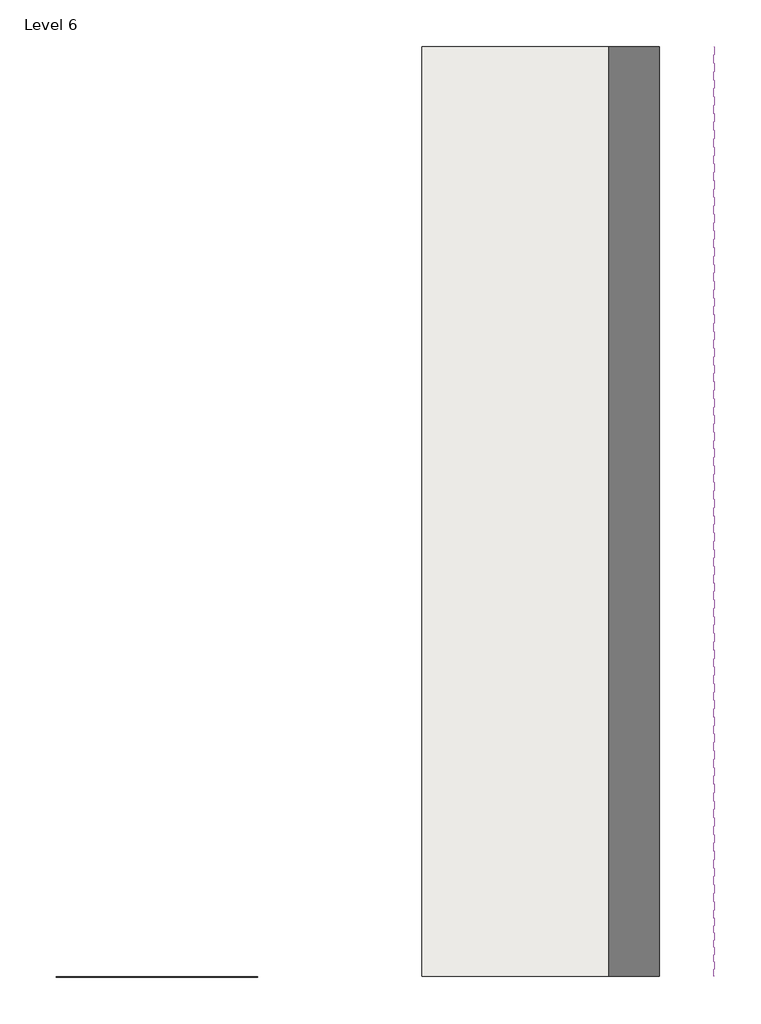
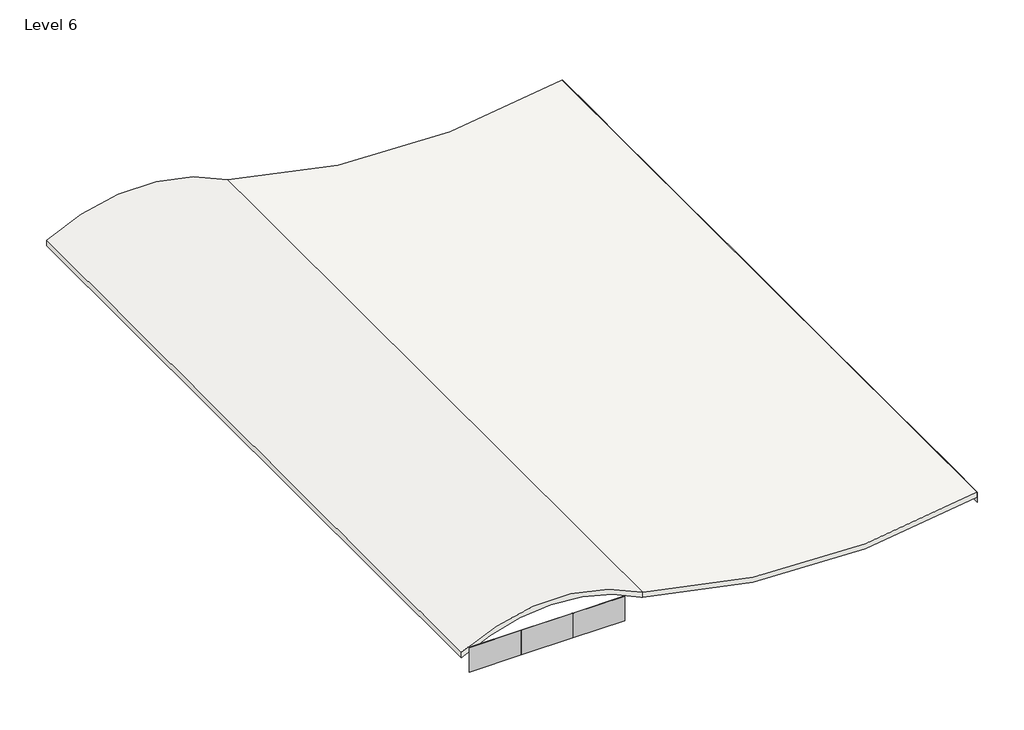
# One storey, incomplete: 17 plates, 1 roof.
"""IFC4 building model written with IfcOpenShell, lengths in millimetres."""

import ifcopenshell
import ifcopenshell.guid

model = None  # the IFC model being written
_history = None  # IfcOwnerHistory: only IFC2X3 demands one
_inside = {}  # id of a spatial element -> (the spatial element, [elements in it])
_under = {}  # id of a project, library or spatial element -> (it, [spatial elements below it])
_declared = {}  # id of a project -> (the project, [libraries it declares])
_typed = {}  # id of a type object -> (the type object, [elements of that type])
_made_of = {}  # id of a material, layer set ... -> (it, [elements and type objects made of it])


def new_model(schema):
    """Start an empty IFC model of exactly this schema.

    Asked for "IFC4X3", IfcOpenShell would pick the latest addendum, in which some entities
    have other attributes; the version numbers below select the first issue.
    IFC2X3 requires an IfcOwnerHistory on every rooted entity: one is made here for all.
    """
    global model, _history
    if schema == "IFC4X3":
        model = ifcopenshell.file(schema_version=(4, 3, 0, 0))
    else:
        model = ifcopenshell.file(schema=schema)
    _inside.clear()
    _under.clear()
    _declared.clear()
    _typed.clear()
    _made_of.clear()
    _history = None
    if model.schema == "IFC2X3":
        org = make("IfcOrganization", Name="unknown")
        user = make(
            "IfcPersonAndOrganization",
            ThePerson=make("IfcPerson", FamilyName="unknown"),
            TheOrganization=org,
        )
        app = make(
            "IfcApplication",
            ApplicationDeveloper=org,
            Version="unknown",
            ApplicationFullName="unknown",
            ApplicationIdentifier="unknown",
        )
        _history = make(
            "IfcOwnerHistory",
            OwningUser=user,
            OwningApplication=app,
            ChangeAction="ADDED",
            CreationDate=0,
        )
    return model


def make(cls, **values):
    """One entity of the class cls with the attributes given. An attribute that is None is left unset."""
    return model.create_entity(
        cls, **{name: value for name, value in values.items() if value is not None}
    )


def rooted(cls, **values):
    """An entity with a GlobalId (a new one), such as an element, a storey or a relation."""
    return make(cls, GlobalId=ifcopenshell.guid.new(), OwnerHistory=_history, **values)


def si_unit(unit_type, name, prefix=None):
    """IfcSIUnit, for example si_unit("LENGTHUNIT", "METRE", prefix="MILLI")."""
    return make("IfcSIUnit", UnitType=unit_type, Prefix=prefix, Name=name)


def assignment(units):
    """IfcUnitAssignment: the units of a project."""
    return None if units is None else make("IfcUnitAssignment", Units=units)


def point(xyz):
    """IfcCartesianPoint."""
    return None if xyz is None else make("IfcCartesianPoint", Coordinates=xyz)


def direction(xyz):
    """IfcDirection."""
    return None if xyz is None else make("IfcDirection", DirectionRatios=xyz)


def frame(location, z_axis=None, x_axis=None):
    """IfcAxis2Placement3D, a coordinate frame: its origin and axes. An axis left out is left unset."""
    return make(
        "IfcAxis2Placement3D",
        Location=point(location),
        Axis=direction(z_axis),
        RefDirection=direction(x_axis),
    )


def origin():
    """The frame at (0, 0, 0) with its axes left unset."""
    return frame((0.0, 0.0, 0.0))


def origin_with_axes():
    """The frame at (0, 0, 0) with the z axis (0, 0, 1) and the x axis (1, 0, 0) written out."""
    return frame((0.0, 0.0, 0.0), z_axis=(0.0, 0.0, 1.0), x_axis=(1.0, 0.0, 0.0))


def place(relative_to, where):
    """IfcLocalPlacement: puts the frame where relative to a parent placement (None: the world)."""
    return make(
        "IfcLocalPlacement", PlacementRelTo=relative_to, RelativePlacement=where
    )


def context(
    kind, dimensions, precision=None, world=None, true_north=None, identifier=None
):
    """IfcGeometricRepresentationContext, for example the 3D "Model" context."""
    return make(
        "IfcGeometricRepresentationContext",
        ContextIdentifier=identifier,
        ContextType=kind,
        CoordinateSpaceDimension=dimensions,
        Precision=precision,
        WorldCoordinateSystem=world,
        TrueNorth=true_north,
    )


def project(units=None, contexts=None):
    """IfcProject with its units and contexts."""
    return rooted(
        "IfcProject",
        Name="project",
        RepresentationContexts=contexts,
        UnitsInContext=assignment(units),
    )


def spatial(cls, under=None, at=None, **own):
    """A site, building, storey or space (cls), placed at a placement, below another one or the project."""
    s = rooted(cls, ObjectPlacement=at, **own)
    if under is not None:
        _under.setdefault(under.id(), (under, []))[1].append(s)
    return s


def polyline(points):
    """IfcPolyline through the points."""
    return make("IfcPolyline", Points=[point(p) for p in points])


def circle_curve(where, radius):
    """IfcCircle in the frame where."""
    return make("IfcCircle", Position=where, Radius=radius)


def outline(outer, holes=None, kind="AREA"):
    """IfcArbitraryClosedProfileDef: a profile drawn as a closed curve; with holes, ...WithVoids."""
    if holes is None:
        return make("IfcArbitraryClosedProfileDef", ProfileType=kind, OuterCurve=outer)
    return make(
        "IfcArbitraryProfileDefWithVoids",
        ProfileType=kind,
        OuterCurve=outer,
        InnerCurves=holes,
    )


def extrude(swept, where, along, depth):
    """IfcExtrudedAreaSolid: the profile swept, set in the frame where, extruded along a direction by depth."""
    return make(
        "IfcExtrudedAreaSolid",
        SweptArea=swept,
        Position=where,
        ExtrudedDirection=direction(along),
        Depth=depth,
    )


def shape(context_of_items, identifier, shape_type, items):
    """IfcShapeRepresentation: the items that make up one representation, for example the "Body"."""
    return make(
        "IfcShapeRepresentation",
        ContextOfItems=context_of_items,
        RepresentationIdentifier=identifier,
        RepresentationType=shape_type,
        Items=items,
    )


def source(mapping_origin, context_of_items, identifier, shape_type, items):
    """IfcRepresentationMap: a shape defined once, which mapped items show again and again."""
    return make(
        "IfcRepresentationMap",
        MappingOrigin=mapping_origin,
        MappedRepresentation=shape(context_of_items, identifier, shape_type, items),
    )


def transform(
    local_origin,
    x_axis=None,
    y_axis=None,
    z_axis=None,
    scale=None,
    scale2=None,
    scale3=None,
    uniform=True,
):
    """IfcCartesianTransformationOperator3D, or its non-uniform kind. x_axis, y_axis, z_axis: its Axis1, 2, 3."""
    if uniform:
        return make(
            "IfcCartesianTransformationOperator3D",
            Axis1=direction(x_axis),
            Axis2=direction(y_axis),
            LocalOrigin=point(local_origin),
            Scale=scale,
            Axis3=direction(z_axis),
        )
    return make(
        "IfcCartesianTransformationOperator3DnonUniform",
        Axis1=direction(x_axis),
        Axis2=direction(y_axis),
        LocalOrigin=point(local_origin),
        Scale=scale,
        Axis3=direction(z_axis),
        Scale2=scale2,
        Scale3=scale3,
    )


def mapped(mapping_source, mapping_target):
    """IfcMappedItem: shows the shape of a source again, moved by a transform."""
    return make(
        "IfcMappedItem", MappingSource=mapping_source, MappingTarget=mapping_target
    )


def made_of(thing, what):
    """Note that an element or type object is made of a material, layer set ...; save() writes the relation."""
    if what is not None:
        _made_of.setdefault(what.id(), (what, []))[1].append(thing)
    return thing


def element(
    cls,
    number,
    at=None,
    inside=None,
    cuts=None,
    type_object=None,
    material=None,
    context=None,
    identifier="Body",
    shape_type=None,
    held_by="IfcProductDefinitionShape",
    body=None,
    shapes=None,
    **own,
):
    """One element of the class cls, such as IfcWall. Its Tag is "e" and its number.

    at: its placement. inside: the storey or other place that contains it. cuts: it is an
    opening in that element (IfcRelVoidsElement). A single representation is given by context,
    identifier, shape_type and body (its items); several are given by shapes. held_by: the class
    of the entity that holds the representations. save() writes the other relations.
    """
    e = rooted(cls, Tag="e%d" % number, ObjectPlacement=at, **own)
    if body is not None:
        shapes = [shape(context, identifier, shape_type, body)]
    if shapes is not None:
        e.Representation = make(held_by, Representations=shapes)
    if inside is not None:
        _inside.setdefault(inside.id(), (inside, []))[1].append(e)
    if cuts is not None:
        rooted(
            "IfcRelVoidsElement", RelatingBuildingElement=cuts, RelatedOpeningElement=e
        )
    if type_object is not None:
        _typed.setdefault(type_object.id(), (type_object, []))[1].append(e)
    return made_of(e, material)


def aggregate(whole, parts):
    """IfcRelAggregates: a whole, such as a stair, and the parts it consists of."""
    return rooted("IfcRelAggregates", RelatingObject=whole, RelatedObjects=parts)


def save(model, path):
    """Write the relations noted so far, then the file.

    IfcRelAggregates (storeys below a building ...), IfcRelContainedInSpatialStructure (elements
    in a storey), IfcRelDefinesByType, IfcRelAssociatesMaterial and IfcRelDeclares: one each for
    every whole, place, type object, material and project.
    """
    for whole, parts in _under.values():
        aggregate(whole, parts)
    for where, things in _inside.values():
        rooted(
            "IfcRelContainedInSpatialStructure",
            RelatedElements=things,
            RelatingStructure=where,
        )
    for kind, things in _typed.values():
        rooted("IfcRelDefinesByType", RelatedObjects=things, RelatingType=kind)
    for what, things in _made_of.values():
        rooted("IfcRelAssociatesMaterial", RelatedObjects=things, RelatingMaterial=what)
    for by, libraries in _declared.values():
        rooted("IfcRelDeclares", RelatingContext=by, RelatedDefinitions=libraries)
    model.write(path)


def plane_surface(at):
    """IfcPlane: the flat surface through the origin of the frame at, square to its z axis."""
    return make("IfcPlane", Position=at)


def cylinder_surface(at, radius):
    """IfcCylindricalSurface: all points at the distance radius from the z axis of the frame at."""
    return make("IfcCylindricalSurface", Position=at, Radius=radius)


def revolved_surface(curve, axis_point, axis_direction):
    """IfcSurfaceOfRevolution: the curve turned about the line through axis_point along axis_direction."""
    return make(
        "IfcSurfaceOfRevolution",
        SweptCurve=make("IfcArbitraryOpenProfileDef", ProfileType="CURVE", Curve=curve),
        AxisPosition=make("IfcAxis1Placement", Location=point(axis_point), Axis=direction(axis_direction)),
    )


def advanced_brep(points, edges, surfaces, faces):
    """IfcAdvancedBrep: a solid bounded by faces that lie on surfaces and meet in shared edges.

    An edge is (start, end): straight between two places in points (the first is 0);
    or (start, end, curve); or (start, end, curve, False) where it runs against its curve.
    A face is (place in surfaces, loops), or (place, loops, False) where it looks against
    its surface's normal. A loop lists edges by number (the first is 1), with a minus sign
    where the edge is run from its end to its start. The first loop is the outer one.
    """
    corners = [point(p) for p in points]
    vertices = [make("IfcVertexPoint", VertexGeometry=c) for c in corners]
    made = []
    for start, end, *more in edges:
        made.append(
            make(
                "IfcEdgeCurve",
                EdgeStart=vertices[start],
                EdgeEnd=vertices[end],
                EdgeGeometry=more[0] if more else make("IfcPolyline", Points=[corners[start], corners[end]]),
                SameSense=more[1] if len(more) > 1 else True,
            )
        )
    hull = []
    for where, loops, *sense in faces:
        bounds = []
        for j, loop in enumerate(loops):
            ring = [make("IfcOrientedEdge", EdgeElement=made[abs(k) - 1], Orientation=k > 0) for k in loop]
            bounds.append(
                make(
                    "IfcFaceOuterBound" if j == 0 else "IfcFaceBound",
                    Bound=make("IfcEdgeLoop", EdgeList=ring),
                    Orientation=True,
                )
            )
        hull.append(make("IfcAdvancedFace", Bounds=bounds, FaceSurface=surfaces[where], SameSense=sense[0] if sense else True))
    return make("IfcAdvancedBrep", Outer=make("IfcClosedShell", CfsFaces=hull))


def system_panel_glazed_0faff7bc(model_context):
    return source(origin(), model_context, "Body", "SweptSolid", [
        extrude(outline(polyline([(1524.0, 19.05), (-1524.0, 19.05), (-1524.0, 44.45), (1524.0, 44.45), (1524.0, 19.05)])), origin_with_axes(), (0.0, 0.0, 1.0), 1524.0),
    ])


def system_panel_glazed_0008f13c(model_context):
    return source(origin(), model_context, "Body", "SweptSolid", [
        extrude(outline(polyline([(1524.0, 19.05), (-1524.0, 19.05), (-1524.0, 44.45), (1524.0, 44.45), (1524.0, 19.05)])), origin_with_axes(), (0.0, 0.0, 1.0), 609.6),
    ])


def system_panel_glazed_53f81c78(model_context):
    return source(origin(), model_context, "Body", "SweptSolid", [
        extrude(outline(polyline([(1319.7377931, 19.05), (-1319.7377931, 19.05), (-1319.7377931, 44.45), (1319.7377931, 44.45), (1319.7377931, 19.05)])), origin_with_axes(), (0.0, 0.0, 1.0), 609.6),
    ])


model = new_model("IFC4")

# Units and contexts
model_context = context("Model", 3, world=origin())
ifc_project = project(units=[si_unit("LENGTHUNIT", "METRE", prefix="MILLI")], contexts=[model_context])

# Site, building, storey
site = spatial("IfcSite", under=ifc_project)
building = spatial("IfcBuilding", under=site)
storey = spatial("IfcBuildingStorey", under=building, Name="Level 6", Elevation=17221.2)

# Plates
placement = place(None, origin())
system_panel_glazed_shape = system_panel_glazed_0faff7bc(model_context)
element("IfcPlate", 1, ObjectType="System Panel : Glazed", at=placement, inside=storey, context=model_context, shape_type="MappedRepresentation", body=[
    mapped(system_panel_glazed_shape, transform((-9515.9167804, -17542.9691989, 18376.4959124), x_axis=(-1.0, 0.0, 0.0), y_axis=(0.0, -1.0, 0.0), z_axis=(0.0, 0.0, 1.0))),
])
element("IfcPlate", 2, ObjectType="System Panel : Glazed", at=placement, inside=storey, context=model_context, shape_type="MappedRepresentation", body=[
    mapped(system_panel_glazed_shape, transform((-12563.9167804, -17542.9691989, 18376.4959124), x_axis=(-1.0, 0.0, 0.0), y_axis=(0.0, -1.0, 0.0), z_axis=(0.0, 0.0, 1.0))),
])
element("IfcPlate", 3, ObjectType="System Panel : Glazed", at=placement, inside=storey, context=model_context, shape_type="MappedRepresentation", body=[
    mapped(system_panel_glazed_shape, transform((-15611.9167804, -17542.9691989, 18376.4959124), x_axis=(-1.0, 0.0, 0.0), y_axis=(0.0, -1.0, 0.0), z_axis=(0.0, 0.0, 1.0))),
])
system_panel_glazed_2_shape = system_panel_glazed_0008f13c(model_context)
element("IfcPlate", 4, ObjectType="System Panel : Glazed", at=placement, inside=storey, context=model_context, shape_type="MappedRepresentation", body=[
    mapped(system_panel_glazed_2_shape, transform((12734.4832196, 23196.5063873, 18452.385767), x_axis=(0.0, -1.0, 0.0), y_axis=(1.0, 0.0, 0.0), z_axis=(0.0, 0.0, 1.0))),
])
element("IfcPlate", 5, ObjectType="System Panel : Glazed", at=placement, inside=storey, context=model_context, shape_type="MappedRepresentation", body=[
    mapped(system_panel_glazed_2_shape, transform((12734.4832196, 20148.5063873, 18452.385767), x_axis=(0.0, -1.0, 0.0), y_axis=(1.0, 0.0, 0.0), z_axis=(0.0, 0.0, 1.0))),
])
element("IfcPlate", 6, ObjectType="System Panel : Glazed", at=placement, inside=storey, context=model_context, shape_type="MappedRepresentation", body=[
    mapped(system_panel_glazed_2_shape, transform((12734.4832196, 17100.5063873, 18452.385767), x_axis=(0.0, -1.0, 0.0), y_axis=(1.0, 0.0, 0.0), z_axis=(0.0, 0.0, 1.0))),
])
element("IfcPlate", 7, ObjectType="System Panel : Glazed", at=placement, inside=storey, context=model_context, shape_type="MappedRepresentation", body=[
    mapped(system_panel_glazed_2_shape, transform((12734.4832196, 14052.5063873, 18452.385767), x_axis=(0.0, -1.0, 0.0), y_axis=(1.0, 0.0, 0.0), z_axis=(0.0, 0.0, 1.0))),
])
element("IfcPlate", 8, ObjectType="System Panel : Glazed", at=placement, inside=storey, context=model_context, shape_type="MappedRepresentation", body=[
    mapped(system_panel_glazed_2_shape, transform((12734.4832196, 11004.5063873, 18452.385767), x_axis=(0.0, -1.0, 0.0), y_axis=(1.0, 0.0, 0.0), z_axis=(0.0, 0.0, 1.0))),
])
element("IfcPlate", 9, ObjectType="System Panel : Glazed", at=placement, inside=storey, context=model_context, shape_type="MappedRepresentation", body=[
    mapped(system_panel_glazed_2_shape, transform((12734.4832196, 7956.5063873, 18452.385767), x_axis=(0.0, -1.0, 0.0), y_axis=(1.0, 0.0, 0.0), z_axis=(0.0, 0.0, 1.0))),
])
element("IfcPlate", 10, ObjectType="System Panel : Glazed", at=placement, inside=storey, context=model_context, shape_type="MappedRepresentation", body=[
    mapped(system_panel_glazed_2_shape, transform((12734.4832196, 4908.5063873, 18452.385767), x_axis=(0.0, -1.0, 0.0), y_axis=(1.0, 0.0, 0.0), z_axis=(0.0, 0.0, 1.0))),
])
element("IfcPlate", 11, ObjectType="System Panel : Glazed", at=placement, inside=storey, context=model_context, shape_type="MappedRepresentation", body=[
    mapped(system_panel_glazed_2_shape, transform((12734.4832196, 1860.5063873, 18452.385767), x_axis=(0.0, -1.0, 0.0), y_axis=(1.0, 0.0, 0.0), z_axis=(0.0, 0.0, 1.0))),
])
element("IfcPlate", 12, ObjectType="System Panel : Glazed", at=placement, inside=storey, context=model_context, shape_type="MappedRepresentation", body=[
    mapped(system_panel_glazed_2_shape, transform((12734.4832196, -1187.4936127, 18452.385767), x_axis=(0.0, -1.0, 0.0), y_axis=(1.0, 0.0, 0.0), z_axis=(0.0, 0.0, 1.0))),
])
element("IfcPlate", 13, ObjectType="System Panel : Glazed", at=placement, inside=storey, context=model_context, shape_type="MappedRepresentation", body=[
    mapped(system_panel_glazed_2_shape, transform((12734.4832196, -4235.4936127, 18452.385767), x_axis=(0.0, -1.0, 0.0), y_axis=(1.0, 0.0, 0.0), z_axis=(0.0, 0.0, 1.0))),
])
element("IfcPlate", 14, ObjectType="System Panel : Glazed", at=placement, inside=storey, context=model_context, shape_type="MappedRepresentation", body=[
    mapped(system_panel_glazed_2_shape, transform((12734.4832196, -7283.4936127, 18452.385767), x_axis=(0.0, -1.0, 0.0), y_axis=(1.0, 0.0, 0.0), z_axis=(0.0, 0.0, 1.0))),
])
element("IfcPlate", 15, ObjectType="System Panel : Glazed", at=placement, inside=storey, context=model_context, shape_type="MappedRepresentation", body=[
    mapped(system_panel_glazed_2_shape, transform((12734.4832196, -10331.4936127, 18452.385767), x_axis=(0.0, -1.0, 0.0), y_axis=(1.0, 0.0, 0.0), z_axis=(0.0, 0.0, 1.0))),
])
element("IfcPlate", 16, ObjectType="System Panel : Glazed", at=placement, inside=storey, context=model_context, shape_type="MappedRepresentation", body=[
    mapped(system_panel_glazed_2_shape, transform((12734.4832196, -13379.4936127, 18452.385767), x_axis=(0.0, -1.0, 0.0), y_axis=(1.0, 0.0, 0.0), z_axis=(0.0, 0.0, 1.0))),
])
system_panel_glazed_3_shape = system_panel_glazed_53f81c78(model_context)
element("IfcPlate", 17, ObjectType="System Panel : Glazed", at=placement, inside=storey, context=model_context, shape_type="MappedRepresentation", body=[
    mapped(system_panel_glazed_3_shape, transform((12734.4832196, -16223.2314058, 18452.385767), x_axis=(0.0, -1.0, 0.0), y_axis=(1.0, 0.0, 0.0), z_axis=(0.0, 0.0, 1.0))),
])

# Roof
element("IfcRoof", 18, ObjectType="Generic - 12\"", at=placement, inside=storey, context=model_context, shape_type="AdvancedBrep", body=[
    advanced_brep(
    [(-6913.1406833, -17542.9691989, 19748.0959124), (12734.4832196, -17542.9691989, 19061.985767), (12734.4832196, 24720.5063873, 19061.985767), (-6913.1406833, 24720.5063873, 19748.0959124), (-17581.1406833, -17542.9691989, 19748.0959124), (-17581.1406833, 24720.5063873, 19748.0959124), (-7034.1967017, -17542.9691989, 19466.1218812), (-7034.1967017, 24720.5063873, 19466.1218812), (-6913.1406833, 24720.5063873, 19430.2088549), (12734.4832196, 24720.5063873, 18749.7681461), (12734.4832196, -17542.9691989, 18749.7681461), (-6913.1406833, -17542.9691989, 19430.2088549), (-17581.1406833, -17542.9691989, 19395.207787), (-17581.1406833, 24720.5063873, 19395.207787)],
    [
        (0, 1, circle_curve(frame((4231.105887, -17542.9691989, 57217.3410283), z_axis=(0.0, -1.0, 0.0), x_axis=(0.9585032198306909, 0.0, -0.285081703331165)), 39091.4128829)),
        (1, 2),
        (2, 3, circle_curve(frame((4231.105887, 24720.5063873, 57217.3410283), z_axis=(0.0, 1.0, 0.0), x_axis=(0.9585032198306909, 0.0, -0.285081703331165)), 39091.4128829)),
        (3, 0),
        (4, 0, circle_curve(frame((-12247.1406833, -17542.9691989, 10428.4272691), z_axis=(0.0, 1.0, 0.0), x_axis=(0.8679029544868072, 0.0, 0.49673379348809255)), 10738.1460048)),
        (3, 5, circle_curve(frame((-12247.1406833, 24720.5063873, 10428.4272691), z_axis=(0.0, -1.0, 0.0), x_axis=(0.8679029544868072, 0.0, 0.49673379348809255)), 10738.1460048)),
        (5, 4),
        (6, 7),
        (7, 8, circle_curve(frame((4231.105887, 24720.5063873, 57217.3410283), z_axis=(0.0, -1.0, 0.0), x_axis=(0.9585032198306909, 0.0, -0.285081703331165)), 39396.2128829)),
        (8, 9, circle_curve(frame((4231.105887, 24720.5063873, 57217.3410283), z_axis=(0.0, -1.0, 0.0), x_axis=(0.9585032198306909, 0.0, -0.285081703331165)), 39396.2128829)),
        (9, 10),
        (10, 11, circle_curve(frame((4231.105887, -17542.9691989, 57217.3410283), z_axis=(0.0, 1.0, 0.0), x_axis=(0.9585032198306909, 0.0, -0.285081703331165)), 39396.2128829)),
        (11, 6, circle_curve(frame((4231.105887, -17542.9691989, 57217.3410283), z_axis=(0.0, 1.0, 0.0), x_axis=(0.9585032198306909, 0.0, -0.285081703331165)), 39396.2128829)),
        (12, 13),
        (13, 7, circle_curve(frame((-12247.1406833, 24720.5063873, 10428.4272691), z_axis=(0.0, 1.0, 0.0), x_axis=(0.8679029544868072, 0.0, 0.49673379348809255)), 10433.3460048)),
        (6, 12, circle_curve(frame((-12247.1406833, -17542.9691989, 10428.4272691), z_axis=(0.0, -1.0, 0.0), x_axis=(0.8679029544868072, 0.0, 0.49673379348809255)), 10433.3460048)),
        (10, 1),
        (0, 11),
        (4, 12),
        (5, 13),
        (3, 8),
        (2, 9),
    ],
    [
        revolved_surface(polyline([(41700.351002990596, 24720.506387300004, 46073.09445802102), (41700.351002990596, -17542.9691989, 46073.09445802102)]), (4231.105887, -17542.9691989, 57217.3410283), (0.0, 1.0, 0.0)),
        cylinder_surface(frame((-12247.1406833, -17542.9691989, 10428.4272691), z_axis=(0.0, 1.0, 0.0), x_axis=(0.8679029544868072, 0.0, 0.49673379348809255)), 10738.1460048),
        cylinder_surface(frame((4231.105887, -17542.9691989, 57217.3410283), z_axis=(0.0, 1.0, 0.0), x_axis=(0.9585032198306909, 0.0, -0.285081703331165)), 39396.2128829),
        revolved_surface(polyline([(-3192.0088605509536, 24720.506387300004, 15611.02280883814), (-3192.0088605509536, -17542.9691989, 15611.02280883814)]), (-12247.1406833, -17542.9691989, 10428.4272691), (0.0, 1.0, 0.0)),
        plane_surface(frame((4231.105887, -17542.9691989, 57217.3410283), z_axis=(0.0, -1.0, 0.0), x_axis=(0.0, 0.0, -1.0))),
        plane_surface(frame((-12247.1406833, -17542.9691989, 10428.4272691), z_axis=(0.0, -1.0, 0.0), x_axis=(0.0, 0.0, -1.0))),
        plane_surface(frame((-17581.1406833, -17542.9691989, 19748.0959124), z_axis=(-1.0, 0.0, 0.0), x_axis=(0.0, 1.0, 0.0))),
        plane_surface(frame((-12247.1406833, 24720.5063873, 10428.4272691), z_axis=(0.0, 1.0, 0.0), x_axis=(0.0, 0.0, 1.0))),
        plane_surface(frame((4231.105887, 24720.5063873, 57217.3410283), z_axis=(0.0, 1.0, 0.0), x_axis=(0.0, 0.0, 1.0))),
        plane_surface(frame((12734.4832196, 24720.5063873, 19061.985767), z_axis=(1.0, 0.0, 0.0), x_axis=(0.0, -1.0, 0.0))),
    ],
    [
        (0, [[1, 2, 3, 4]]),
        (1, [[5, -4, 6, 7]]),
        (2, [[8, 9, 10, 11, 12, 13]]),
        (3, [[14, 15, -8, 16]]),
        (4, [[-12, 17, -1, 18]]),
        (5, [[-16, -13, -18, -5, 19]]),
        (6, [[-14, -19, -7, 20]]),
        (7, [[-15, -20, -6, 21, -9]]),
        (8, [[-10, -21, -3, 22]]),
        (9, [[-11, -22, -2, -17]]),
    ],
),
])

save(model, "model.ifc")
